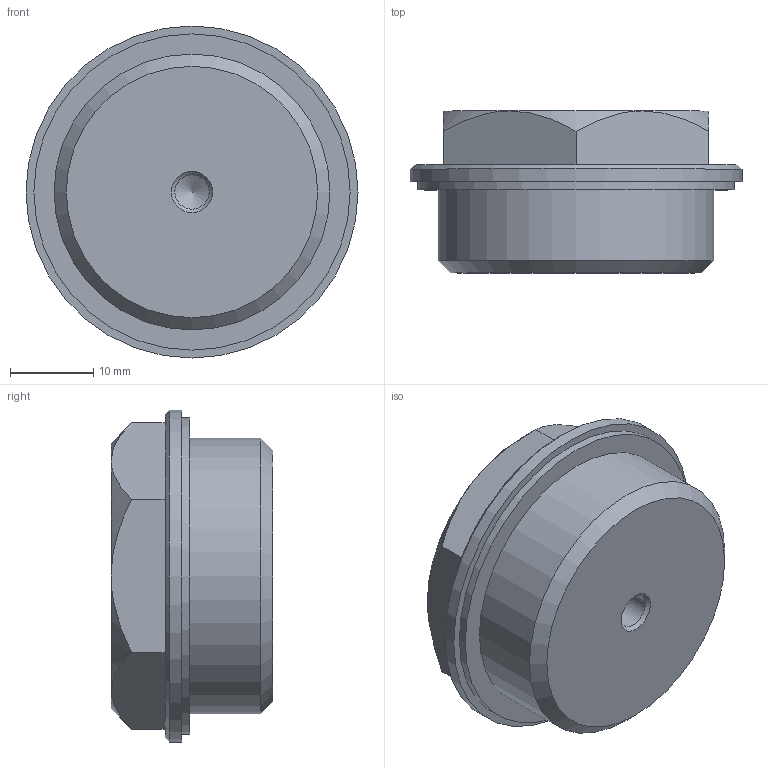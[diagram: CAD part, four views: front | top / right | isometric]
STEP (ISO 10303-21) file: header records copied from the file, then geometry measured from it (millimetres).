
FILE_DESCRIPTION( ( 'STEP AP203' ), '1' );
FILE_NAME( 'C:/Temp/Ganter_Step_05_03_2020/data/3_5/gn742/gn742_1/Threaded plug GN 742-40-G1-OS-1.stp', '2020-03-12T13:39:14', ( 'License CC BY-ND 4.0' ), ( 'CADENAS' ), ' ', 'PARTsolutions', ' ' );
FILE_SCHEMA( ( 'CONFIG_CONTROL_DESIGN' ) );
Length unit declared in the file: millimetre
Products named in the file (1): _Threaded plug GN 742-40-G1-OS-1
Bounding box: 40 x 19.5 x 40 mm (x, y, z)
Volume: 17704.2 mm3; surface area: 4652.8 mm2
Topology: 1 solids, 1 shells, 25 faces, 50 edges, 30 vertices
Faces by surface type: plane 11, cone 10, cylinder 4
Full cylindrical faces by diameter (mm): 4.134 x1, 33.249 x1, 38.1 x1, 40 x1
Entity records: 700 total; most frequent: CARTESIAN_POINT 181, DIRECTION 98, ORIENTED_EDGE 82, AXIS2_PLACEMENT_3D 43, EDGE_CURVE 41, EDGE_LOOP 36, VERTEX_POINT 30, FACE_OUTER_BOUND 29
